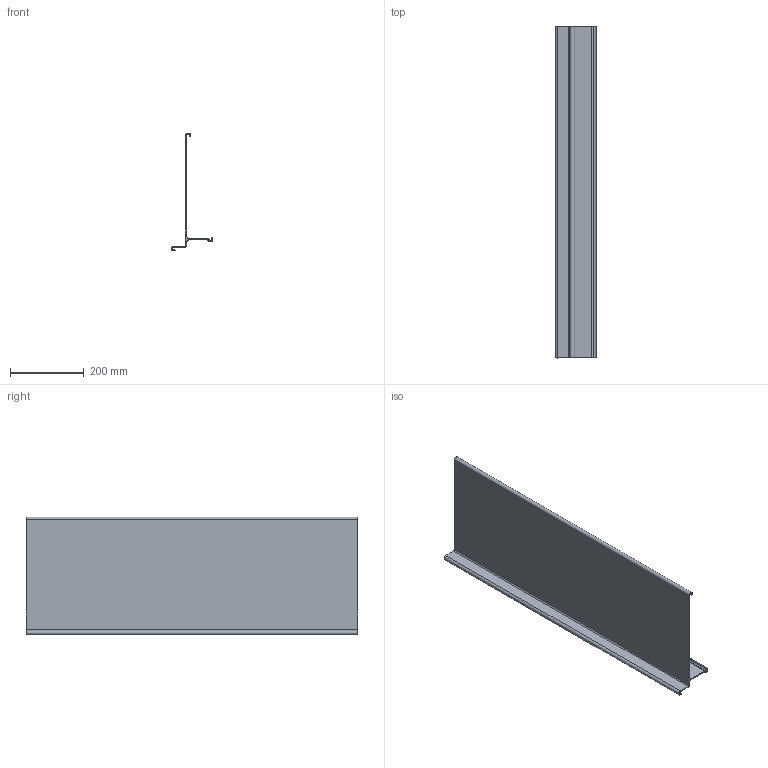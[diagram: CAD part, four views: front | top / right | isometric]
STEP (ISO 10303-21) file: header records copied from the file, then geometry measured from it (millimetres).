
FILE_DESCRIPTION( ( 'Unknown' ), '1' );
FILE_NAME( 'C:/Users/utente/Desktop/DANESE SPACE 2017/archiviovivo/archiviovivo 90.stp', 'Unknown', ( 'Unknown' ), ( 'Unknown' ), 'PSStep 14.0', 'Unknown', ' ' );
FILE_SCHEMA( ( 'AUTOMOTIVE_DESIGN { 1 0 10303 214 1 1 1 1 }' ) );
Length unit declared in the file: millimetre
Products named in the file (1): 1
Bounding box: 112.48 x 900 x 319.99 mm (x, y, z)
Volume: 1234408.2 mm3; surface area: 815160 mm2
Topology: 1 solids, 1 shells, 28 faces, 78 edges, 52 vertices
Faces by surface type: cylinder 15, plane 13
Entity records: 1152 total; most frequent: DIRECTION 166, CARTESIAN_POINT 159, ORIENTED_EDGE 156, EDGE_CURVE 78, AXIS2_PLACEMENT_3D 59, VERTEX_POINT 52, LINE 48, VECTOR 48
